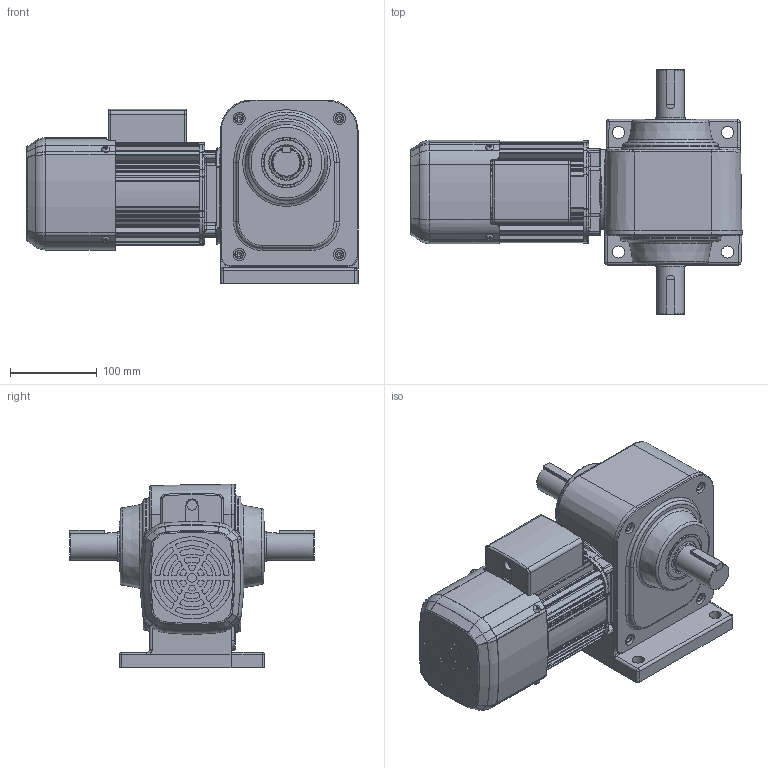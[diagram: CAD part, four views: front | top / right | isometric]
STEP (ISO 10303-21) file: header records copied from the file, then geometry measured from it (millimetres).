
FILE_DESCRIPTION( ( 'Unknown' ), '1' );
FILE_NAME( 'W:/gm/3D-WEB/GM-SHY/完成品/パーツ/完成品/三相/shybrt_04_80-240.stp', 'Unknown', ( 'Unknown' ), ( 'Unknown' ), 'PSStep 11.0', 'Unknown', ' ' );
FILE_SCHEMA( ( 'AUTOMOTIVE_DESIGN { 1 0 10303 214 1 1 1 1 }' ) );
Length unit declared in the file: millimetre
Products named in the file (2): P728241_抂巕敔蔬
Bounding box: 383 x 282 x 212 mm (x, y, z)
Volume: 4744778.2 mm3; surface area: 500966.5 mm2
Topology: 2 solids, 8 shells, 1353 faces, 3397 edges, 2125 vertices
Faces by surface type: cylinder 597, plane 532, torus 109, bspline 65, cone 48, sphere 2
Full cylindrical faces by diameter (mm): 3.3 x4, 4 x4, 4.134 x8, 4.5 x8, 4.8 x4, 4.917 x8, 10 x5, 12 x2, 14 x8, 15 x1, 16 x1, 32 x2, 34 x4, 35 x2, 42 x2, 50 x1, 52 x3, 58 x2, 94.886 x1, 112.5 x1
Entity records: 58848 total; most frequent: CARTESIAN_POINT 15865, DIRECTION 7081, ORIENTED_EDGE 6442, EDGE_CURVE 3221, AXIS2_PLACEMENT_3D 2784, VERTEX_POINT 2077, EDGE_LOOP 1562, LINE 1513
